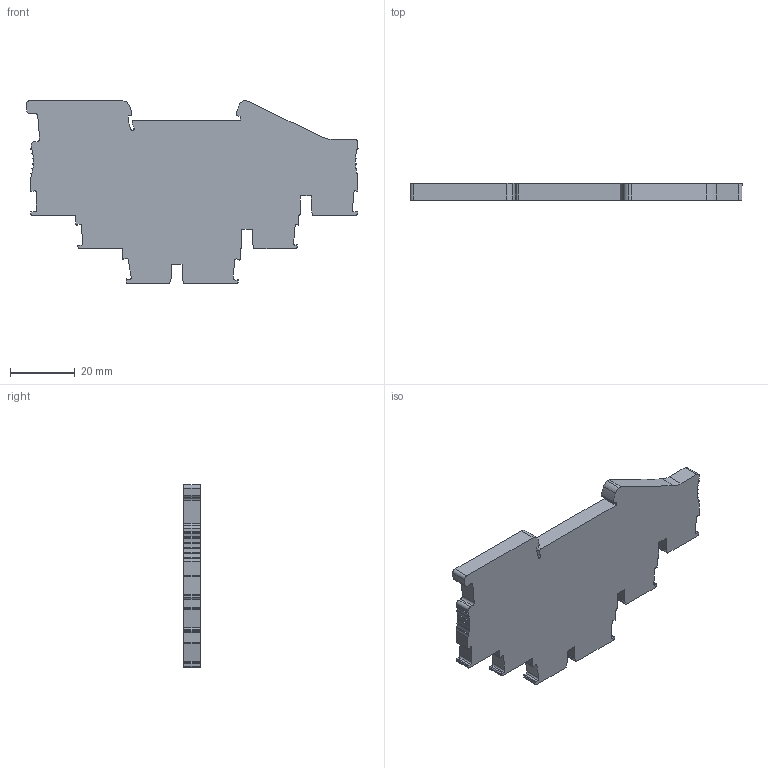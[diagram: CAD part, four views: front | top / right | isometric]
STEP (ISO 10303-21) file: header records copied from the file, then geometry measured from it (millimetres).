
FILE_DESCRIPTION(/* description */ (''),/* implementation_level */ '2;1');
FILE_NAME(/* name */ '',/* time_stamp */ '',/* author */ (''),/* organization */ (''),/* preprocessor_version */ '',/* originating_system */ '',/* authorisation */ '');
FILE_SCHEMA (('AUTOMOTIVE_DESIGN { 1 0 10303 214 3 1 1 }'));
Length unit declared in the file: millimetre
Products named in the file (1): CPT2.5-PE-L-N
Bounding box: 102.78 x 5.18 x 56.63 mm (x, y, z)
Volume: 20715.3 mm3; surface area: 10425.6 mm2
Topology: 1 solids, 2 shells, 435 faces, 1275 edges, 850 vertices
Faces by surface type: plane 330, cylinder 104, bspline 1
Entity records: 14863 total; most frequent: CARTESIAN_POINT 2579, ORIENTED_EDGE 2550, DIRECTION 2362, EDGE_CURVE 1275, LINE 1052, VECTOR 1052, VERTEX_POINT 850, AXIS2_PLACEMENT_3D 655
